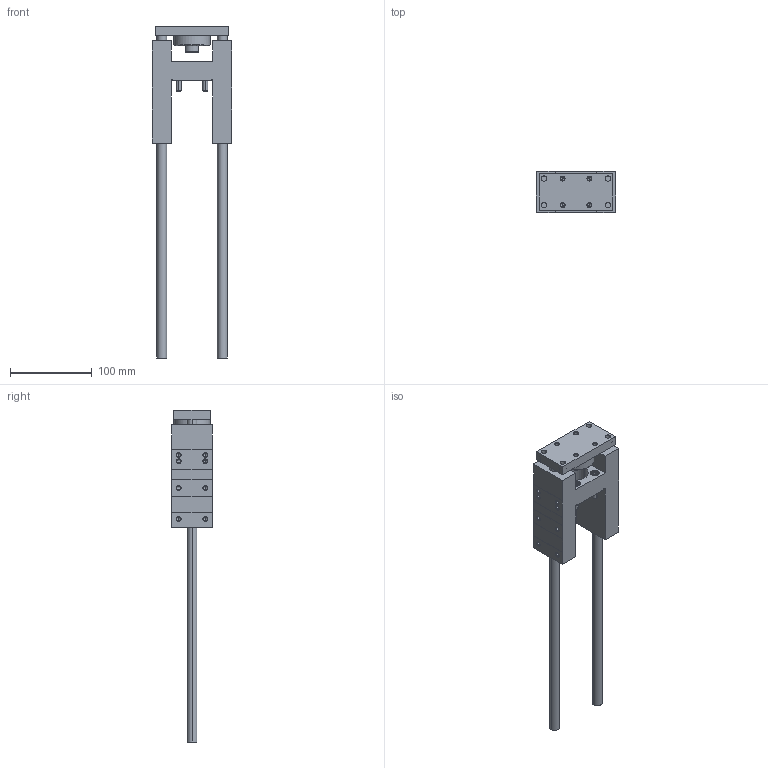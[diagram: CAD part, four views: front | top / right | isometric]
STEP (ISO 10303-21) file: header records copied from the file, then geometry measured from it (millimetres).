
FILE_DESCRIPTION (( 'STEP AP203' ), '1' );
FILE_NAME ('GB32-250.STEP', '2020-04-24T11:11:43', ( '' ), ( '' ), 'SwSTEP 2.0', 'SolidWorks 2019', '' );
FILE_SCHEMA (( 'CONFIG_CONTROL_DESIGN' ));
Length unit declared in the file: millimetre
Products named in the file (1): GB32-250
Bounding box: 97 x 50 x 405 mm (x, y, z)
Volume: 450485 mm3; surface area: 111206 mm2
Topology: 6 solids, 6 shells, 377 faces, 862 edges, 494 vertices
Faces by surface type: cone 154, plane 117, cylinder 106
Entity records: 11155 total; most frequent: CARTESIAN_POINT 2540, DIRECTION 1916, ORIENTED_EDGE 1660, EDGE_CURVE 830, AXIS2_PLACEMENT_3D 756, VERTEX_POINT 494, EDGE_LOOP 444, VECTOR 404
